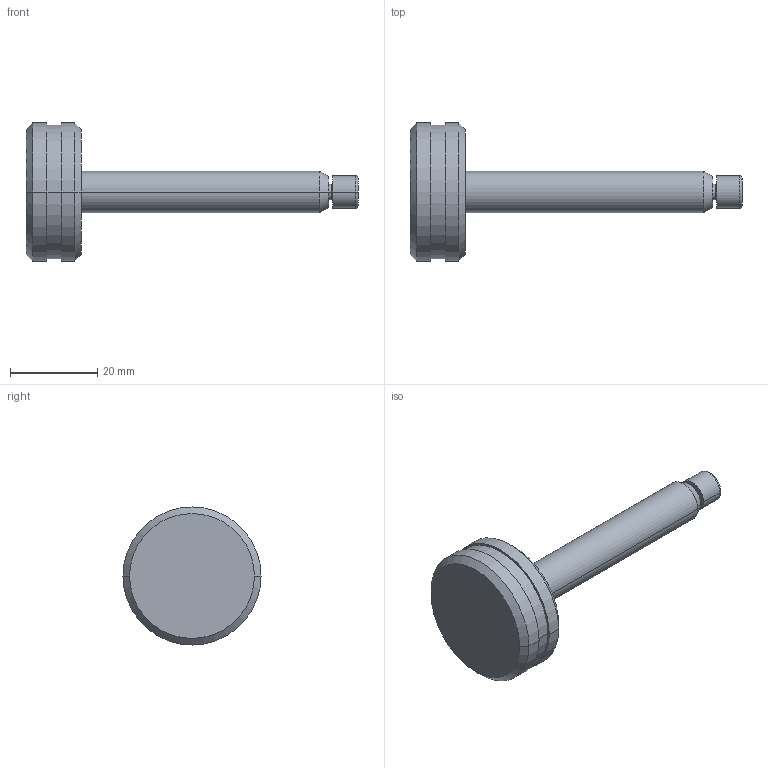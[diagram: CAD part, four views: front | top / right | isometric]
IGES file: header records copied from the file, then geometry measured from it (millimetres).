
Start section:  PTC IGES file: sch342-part.igs
Global section: file name: sch342-part.igs; native system: Pro/ENGINEER by Parametric Technology Corporation; preprocessor: 2002350; author: chant; organization: Unknown; date: 070529.163045; units: inch
Bounding box: 76.3 x 31.75 x 31.75 mm (x, y, z)
Surface area: 4736.7 mm2 (no closed solid volume)
Topology: 0 solids, 0 shells, 33 faces, 172 edges, 194 vertices
Faces by surface type: revolution 26, bspline 7
